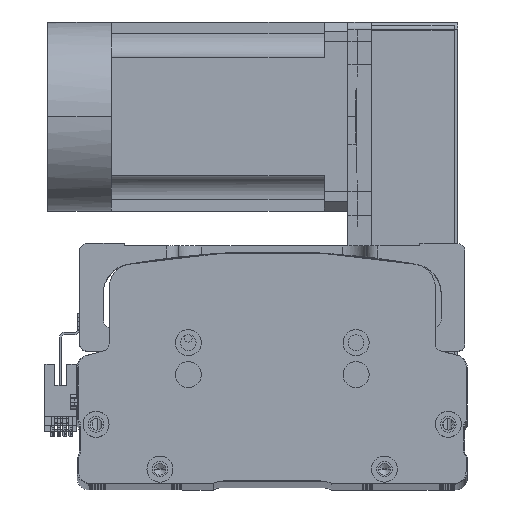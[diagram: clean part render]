
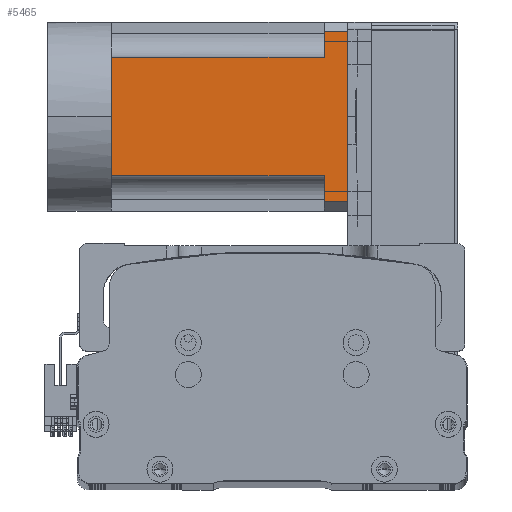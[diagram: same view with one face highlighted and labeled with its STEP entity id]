
A CAD part, top view. The second image highlights one B-rep face of the part: STEP entity #5465.
In plain terms, the highlighted planar face has unit normal (0, 0, 1) as drawn and (0, 0, -1) by its records, which use the part's own axes.
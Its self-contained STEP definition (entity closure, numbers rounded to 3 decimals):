
#960 = DIRECTION ( 'NONE',  ( -1., 0., 0. ) ) ;
#4228 = DIRECTION ( 'NONE',  ( 0., -1., 0. ) ) ;
#4447 = CARTESIAN_POINT ( 'NONE',  ( -36., 90., -40. ) ) ;
#4930 = LINE ( 'NONE', #67823, #59697 ) ;
#5321 = LINE ( 'NONE', #49608, #60088 ) ;
#5465 = ADVANCED_FACE ( 'NONE', ( #47861 ), #7813, .T. ) ;
#5727 = ORIENTED_EDGE ( 'NONE', *, *, #11436, .T. ) ;
#7813 = PLANE ( 'NONE',  #22912 ) ;
#9856 = DIRECTION ( 'NONE',  ( -1., 0., 0. ) ) ;
#11001 = CARTESIAN_POINT ( 'NONE',  ( -40., 0., -40. ) ) ;
#11302 = CARTESIAN_POINT ( 'NONE',  ( 0., 0., -40. ) ) ;
#11436 = EDGE_CURVE ( 'NONE', #36533, #14940, #11467, .T. ) ;
#11467 = LINE ( 'NONE', #59218, #13143 ) ;
#11788 = VECTOR ( 'NONE', #4228, 1000. ) ;
#12850 = EDGE_LOOP ( 'NONE', ( #27061, #28780, #16364, #63091, #64984, #23361, #60077, #5727, #32857 ) ) ;
#13143 = VECTOR ( 'NONE', #960, 1000. ) ;
#14940 = VERTEX_POINT ( 'NONE', #4447 ) ;
#15338 = VERTEX_POINT ( 'NONE', #29754 ) ;
#15876 = EDGE_CURVE ( 'NONE', #15338, #59667, #36658, .T. ) ;
#15946 = VERTEX_POINT ( 'NONE', #31284 ) ;
#16364 = ORIENTED_EDGE ( 'NONE', *, *, #23748, .T. ) ;
#18639 = CARTESIAN_POINT ( 'NONE',  ( -36., -27., -40. ) ) ;
#20062 = CARTESIAN_POINT ( 'NONE',  ( -40., 0., -40. ) ) ;
#20843 = CARTESIAN_POINT ( 'NONE',  ( -25., 90., -40. ) ) ;
#22175 = CARTESIAN_POINT ( 'NONE',  ( 36., 90., -40. ) ) ;
#22245 = VECTOR ( 'NONE', #67883, 1000. ) ;
#22313 = EDGE_CURVE ( 'NONE', #15946, #42983, #64455, .T. ) ;
#22912 = AXIS2_PLACEMENT_3D ( 'NONE', #50244, #60853, #29023 ) ;
#23361 = ORIENTED_EDGE ( 'NONE', *, *, #59087, .T. ) ;
#23748 = EDGE_CURVE ( 'NONE', #42983, #15338, #5321, .T. ) ;
#26920 = DIRECTION ( 'NONE',  ( -1., 0., 0. ) ) ;
#27061 = ORIENTED_EDGE ( 'NONE', *, *, #47071, .F. ) ;
#27594 = VECTOR ( 'NONE', #26920, 1000. ) ;
#28780 = ORIENTED_EDGE ( 'NONE', *, *, #22313, .T. ) ;
#29023 = DIRECTION ( 'NONE',  ( -1., 0., 0. ) ) ;
#29123 = CARTESIAN_POINT ( 'NONE',  ( -25., 0., -40. ) ) ;
#29172 = CARTESIAN_POINT ( 'NONE',  ( -36., 100., -40. ) ) ;
#29631 = CARTESIAN_POINT ( 'NONE',  ( 36., -27., -40. ) ) ;
#29754 = CARTESIAN_POINT ( 'NONE',  ( 25., 90., -40. ) ) ;
#31284 = CARTESIAN_POINT ( 'NONE',  ( 36., 100., -40. ) ) ;
#32857 = ORIENTED_EDGE ( 'NONE', *, *, #48584, .T. ) ;
#33959 = VECTOR ( 'NONE', #55609, 1000. ) ;
#34571 = VECTOR ( 'NONE', #66567, 1000. ) ;
#34653 = VERTEX_POINT ( 'NONE', #29172 ) ;
#35652 = LINE ( 'NONE', #51013, #33959 ) ;
#36533 = VERTEX_POINT ( 'NONE', #20843 ) ;
#36658 = LINE ( 'NONE', #67789, #11788 ) ;
#37050 = EDGE_CURVE ( 'NONE', #58285, #36533, #35652, .T. ) ;
#41324 = VECTOR ( 'NONE', #50480, 1000. ) ;
#42983 = VERTEX_POINT ( 'NONE', #22175 ) ;
#44509 = DIRECTION ( 'NONE',  ( -1., 0., 0. ) ) ;
#45154 = LINE ( 'NONE', #11001, #27594 ) ;
#46513 = VERTEX_POINT ( 'NONE', #11302 ) ;
#47071 = EDGE_CURVE ( 'NONE', #15946, #34653, #4930, .T. ) ;
#47861 = FACE_OUTER_BOUND ( 'NONE', #12850, .T. ) ;
#48584 = EDGE_CURVE ( 'NONE', #14940, #34653, #67855, .T. ) ;
#49608 = CARTESIAN_POINT ( 'NONE',  ( -40., 90., -40. ) ) ;
#50244 = CARTESIAN_POINT ( 'NONE',  ( -40., -27., -40. ) ) ;
#50480 = DIRECTION ( 'NONE',  ( 0., 1., 0. ) ) ;
#51013 = CARTESIAN_POINT ( 'NONE',  ( -25., -27., -40. ) ) ;
#55609 = DIRECTION ( 'NONE',  ( 0., 1., 0. ) ) ;
#58285 = VERTEX_POINT ( 'NONE', #29123 ) ;
#59087 = EDGE_CURVE ( 'NONE', #46513, #58285, #45154, .T. ) ;
#59166 = CARTESIAN_POINT ( 'NONE',  ( 25., 0., -40. ) ) ;
#59218 = CARTESIAN_POINT ( 'NONE',  ( -40., 90., -40. ) ) ;
#59667 = VERTEX_POINT ( 'NONE', #59166 ) ;
#59697 = VECTOR ( 'NONE', #9856, 1000. ) ;
#60077 = ORIENTED_EDGE ( 'NONE', *, *, #37050, .T. ) ;
#60088 = VECTOR ( 'NONE', #44509, 1000. ) ;
#60853 = DIRECTION ( 'NONE',  ( 0., 0., -1. ) ) ;
#63091 = ORIENTED_EDGE ( 'NONE', *, *, #15876, .T. ) ;
#63692 = EDGE_CURVE ( 'NONE', #59667, #46513, #66286, .T. ) ;
#64455 = LINE ( 'NONE', #29631, #34571 ) ;
#64984 = ORIENTED_EDGE ( 'NONE', *, *, #63692, .T. ) ;
#66286 = LINE ( 'NONE', #20062, #22245 ) ;
#66567 = DIRECTION ( 'NONE',  ( 0., -1., 0. ) ) ;
#67789 = CARTESIAN_POINT ( 'NONE',  ( 25., -27., -40. ) ) ;
#67823 = CARTESIAN_POINT ( 'NONE',  ( -40., 100., -40. ) ) ;
#67855 = LINE ( 'NONE', #18639, #41324 ) ;
#67883 = DIRECTION ( 'NONE',  ( -1., 0., 0. ) ) ;
